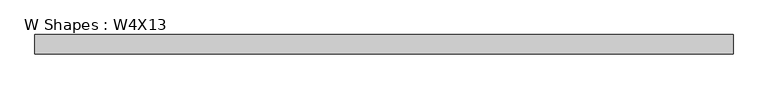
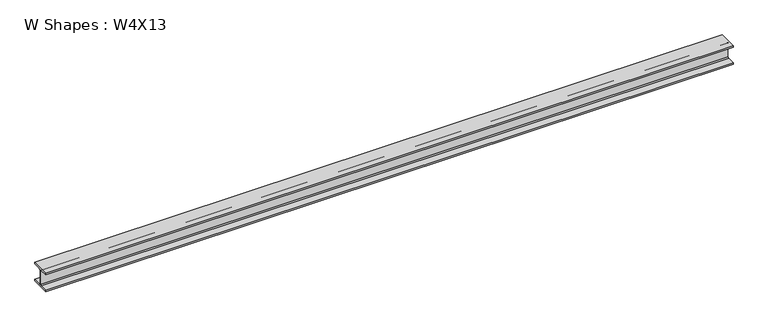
"""IFC4 building model written with IfcOpenShell, lengths in millimetres: beam geometry, W Shapes : W4X13."""

from ifc_helpers import new_model, si_unit, point, frame, frame_2d, origin, place, context, project, spatial, polyline, circle_curve, trimmed, segment, composite_curve, outline, extrude, source, transform, mapped, element, save


def w_shapes_w4x13_54614953(model_context):
    return source(origin(), model_context, "Body", "SweptSolid", [
        extrude(outline(composite_curve([segment(polyline([(51.562, -44.069), (51.562, -52.832), (-51.562, -52.832), (-51.562, -44.069), (-9.906, -44.069)]), True, "CONTINUOUS"), segment(trimmed(circle_curve(frame_2d((-9.906, -37.719)), 6.35), [point((-9.906, -44.069))], [point((-3.556, -37.719))], True, "CARTESIAN"), True, "CONTINUOUS"), segment(polyline([(-3.556, -37.719), (-3.556, 37.719)]), True, "CONTINUOUS"), segment(trimmed(circle_curve(frame_2d((-9.906, 37.719)), 6.35), [point((-3.556, 37.719))], [point((-9.906, 44.069))], True, "CARTESIAN"), True, "CONTINUOUS"), segment(polyline([(-9.906, 44.069), (-51.562, 44.069), (-51.562, 52.832), (51.562, 52.832), (51.562, 44.069), (9.906, 44.069)]), True, "CONTINUOUS"), segment(trimmed(circle_curve(frame_2d((9.906, 37.719)), 6.35), [point((9.906, 44.069))], [point((3.556, 37.719))], True, "CARTESIAN"), True, "CONTINUOUS"), segment(polyline([(3.556, 37.719), (3.556, -37.719)]), True, "CONTINUOUS"), segment(trimmed(circle_curve(frame_2d((9.906, -37.719)), 6.35), [point((3.556, -37.719))], [point((9.906, -44.069))], True, "CARTESIAN"), True, "CONTINUOUS"), segment(polyline([(9.906, -44.069), (51.562, -44.069)]), True, "CONTINUOUS")], self_intersect=False)), frame((-1854.073, 0.0, 0.0), z_axis=(1.0, 0.0, 0.0), x_axis=(0.0, 1.0, 0.0)), (0.0, 0.0, 1.0), 3708.146),
    ])


if __name__ == "__main__":
    model = new_model("IFC4")
    model_context = context("Model", 3, world=origin())
    ifc_project = project(units=[si_unit("LENGTHUNIT", "METRE", prefix="MILLI")], contexts=[model_context])
    site = spatial("IfcSite", under=ifc_project)
    building = spatial("IfcBuilding", under=site)
    placement = place(None, origin())
    w_shapes_w4x13_shape = w_shapes_w4x13_54614953(model_context)
    element("IfcBeam", 1, ObjectType="W Shapes : W4X13", at=placement, inside=building, context=model_context, shape_type="MappedRepresentation", body=[
        mapped(w_shapes_w4x13_shape, transform((0.0, 0.0, 0.0), x_axis=(1.0, 0.0, 0.0), y_axis=(0.0, 1.0, 0.0), z_axis=(0.0, 0.0, 1.0))),
    ])
    save(model, "model.ifc")
